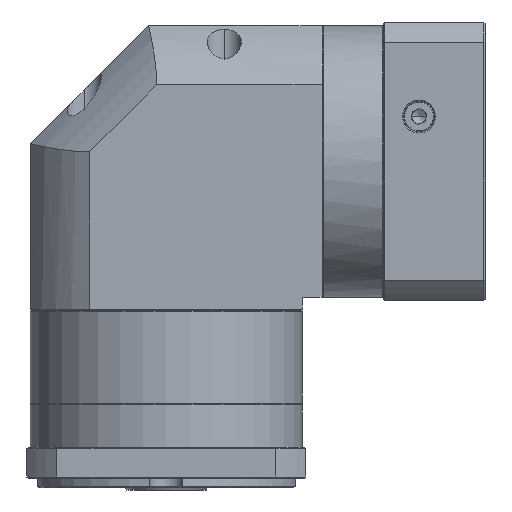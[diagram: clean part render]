
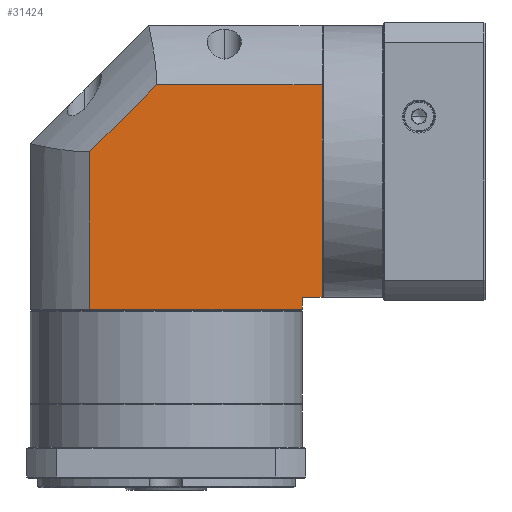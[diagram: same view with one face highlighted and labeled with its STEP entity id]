
A CAD part, front view. The second image highlights one B-rep face of the part: STEP entity #31424.
In plain terms, the highlighted planar face has unit normal (0, -1, 0).
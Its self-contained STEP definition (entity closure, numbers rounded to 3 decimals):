
#719 = DIRECTION ( 'NONE',  ( -1., 0., 0. ) ) ;
#1651 = LINE ( 'NONE', #47754, #83732 ) ;
#3470 = FACE_OUTER_BOUND ( 'NONE', #124850, .T. ) ;
#4941 = LINE ( 'NONE', #99629, #79325 ) ;
#5492 = VERTEX_POINT ( 'NONE', #112803 ) ;
#6538 = VECTOR ( 'NONE', #31700, 1000. ) ;
#7150 = EDGE_CURVE ( 'NONE', #67577, #52905, #4941, .T. ) ;
#10633 = CARTESIAN_POINT ( 'NONE',  ( 105.762, -0.18, -54.85 ) ) ;
#11475 = EDGE_CURVE ( 'NONE', #90829, #53517, #86681, .T. ) ;
#13081 = CARTESIAN_POINT ( 'NONE',  ( -17.638, -0.18, -59.85 ) ) ;
#15027 = DIRECTION ( 'NONE',  ( 0., 1., 0. ) ) ;
#23913 = CARTESIAN_POINT ( 'NONE',  ( 7.462, -0.18, -59.85 ) ) ;
#24119 = ORIENTED_EDGE ( 'NONE', *, *, #95358, .F. ) ;
#29437 = DIRECTION ( 'NONE',  ( 0.707, 0., 0.707 ) ) ;
#31424 = ADVANCED_FACE ( 'NONE', ( #3470 ), #55303, .F. ) ;
#31700 = DIRECTION ( 'NONE',  ( 1., 0., 0. ) ) ;
#34946 = EDGE_CURVE ( 'NONE', #53517, #68196, #74487, .T. ) ;
#40528 = VECTOR ( 'NONE', #111912, 1000. ) ;
#47754 = CARTESIAN_POINT ( 'NONE',  ( 97.362, -0.18, -66.35 ) ) ;
#50637 = LINE ( 'NONE', #109926, #96981 ) ;
#51185 = ORIENTED_EDGE ( 'NONE', *, *, #89827, .F. ) ;
#51679 = CARTESIAN_POINT ( 'NONE',  ( 97.362, -0.18, -54.85 ) ) ;
#51974 = CARTESIAN_POINT ( 'NONE',  ( -17.638, -0.18, 35.05 ) ) ;
#52681 = ORIENTED_EDGE ( 'NONE', *, *, #63855, .F. ) ;
#52905 = VERTEX_POINT ( 'NONE', #10633 ) ;
#53517 = VERTEX_POINT ( 'NONE', #23913 ) ;
#54768 = ORIENTED_EDGE ( 'NONE', *, *, #7150, .F. ) ;
#55303 = PLANE ( 'NONE',  #90939 ) ;
#55735 = CARTESIAN_POINT ( 'NONE',  ( -17.638, -0.18, -66.35 ) ) ;
#63855 = EDGE_CURVE ( 'NONE', #90814, #90829, #1651, .T. ) ;
#67577 = VERTEX_POINT ( 'NONE', #82114 ) ;
#68196 = VERTEX_POINT ( 'NONE', #100050 ) ;
#69190 = ORIENTED_EDGE ( 'NONE', *, *, #34946, .F. ) ;
#69584 = CARTESIAN_POINT ( 'NONE',  ( 7.462, -0.18, 6.711 ) ) ;
#74487 = LINE ( 'NONE', #74792, #105433 ) ;
#74792 = CARTESIAN_POINT ( 'NONE',  ( 7.462, -0.18, -66.35 ) ) ;
#78144 = DIRECTION ( 'NONE',  ( 0., 0., 1. ) ) ;
#79325 = VECTOR ( 'NONE', #119584, 1000. ) ;
#82114 = CARTESIAN_POINT ( 'NONE',  ( 105.762, -0.18, 35.05 ) ) ;
#82162 = EDGE_CURVE ( 'NONE', #52905, #90814, #50637, .T. ) ;
#83732 = VECTOR ( 'NONE', #107409, 1000. ) ;
#84203 = DIRECTION ( 'NONE',  ( 1., 0., 0. ) ) ;
#85504 = LINE ( 'NONE', #51974, #6538 ) ;
#86681 = LINE ( 'NONE', #13081, #40528 ) ;
#89827 = EDGE_CURVE ( 'NONE', #5492, #67577, #85504, .T. ) ;
#90814 = VERTEX_POINT ( 'NONE', #51679 ) ;
#90829 = VERTEX_POINT ( 'NONE', #110176 ) ;
#90939 = AXIS2_PLACEMENT_3D ( 'NONE', #55735, #15027, #84203 ) ;
#93140 = ORIENTED_EDGE ( 'NONE', *, *, #82162, .F. ) ;
#95358 = EDGE_CURVE ( 'NONE', #68196, #5492, #113504, .T. ) ;
#96981 = VECTOR ( 'NONE', #719, 1000. ) ;
#99629 = CARTESIAN_POINT ( 'NONE',  ( 105.762, -0.18, -66.35 ) ) ;
#100050 = CARTESIAN_POINT ( 'NONE',  ( 7.462, -0.18, 6.711 ) ) ;
#105433 = VECTOR ( 'NONE', #78144, 1000. ) ;
#107409 = DIRECTION ( 'NONE',  ( 0., 0., -1. ) ) ;
#109926 = CARTESIAN_POINT ( 'NONE',  ( -17.638, -0.18, -54.85 ) ) ;
#110176 = CARTESIAN_POINT ( 'NONE',  ( 97.362, -0.18, -59.85 ) ) ;
#111912 = DIRECTION ( 'NONE',  ( -1., 0., 0. ) ) ;
#112803 = CARTESIAN_POINT ( 'NONE',  ( 35.8, -0.18, 35.05 ) ) ;
#113504 = LINE ( 'NONE', #69584, #125843 ) ;
#115102 = ORIENTED_EDGE ( 'NONE', *, *, #11475, .F. ) ;
#119584 = DIRECTION ( 'NONE',  ( 0., 0., -1. ) ) ;
#124850 = EDGE_LOOP ( 'NONE', ( #52681, #93140, #54768, #51185, #24119, #69190, #115102 ) ) ;
#125843 = VECTOR ( 'NONE', #29437, 1000. ) ;
